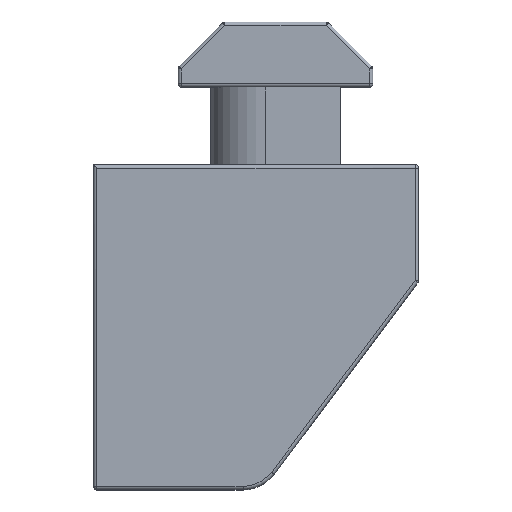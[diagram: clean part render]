
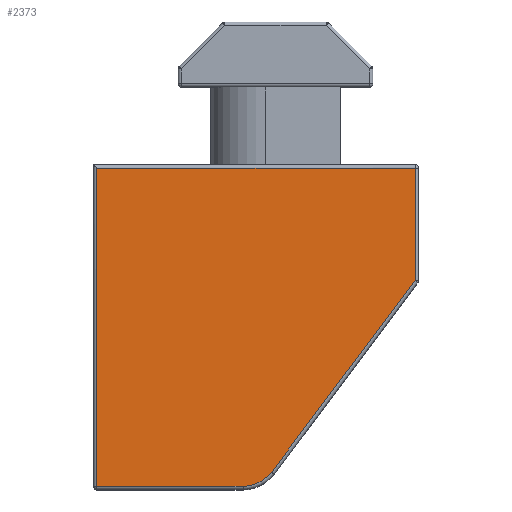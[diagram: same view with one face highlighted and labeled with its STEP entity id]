
A CAD part, top view. The second image highlights one B-rep face of the part: STEP entity #2373.
In plain terms, the highlighted planar face has unit normal (0, 0, 1).
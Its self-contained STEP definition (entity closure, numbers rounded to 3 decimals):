
#23 = DIRECTION ( 'NONE',  ( 1., 0., 0. ) ) ;
#24 = CARTESIAN_POINT ( 'NONE',  ( -1., -12.25, 18.5 ) ) ;
#25 = DIRECTION ( 'NONE',  ( 0.6, 0.8, 0. ) ) ;
#26 = CARTESIAN_POINT ( 'NONE',  ( 12.3, 3.65, 18.5 ) ) ;
#27 = DIRECTION ( 'NONE',  ( 0., 1., 0. ) ) ;
#30 = CARTESIAN_POINT ( 'NONE',  ( 12.25, 12.5, 18.5 ) ) ;
#31 = DIRECTION ( 'NONE',  ( 0., -1., 0. ) ) ;
#32 = CARTESIAN_POINT ( 'NONE',  ( -12.25, -12.5, 18.5 ) ) ;
#33 = DIRECTION ( 'NONE',  ( -1., 0., 0. ) ) ;
#34 = CARTESIAN_POINT ( 'NONE',  ( -12.5, 12.25, 18.5 ) ) ;
#36 = DIRECTION ( 'NONE',  ( 1., 0., 0. ) ) ;
#37 = DIRECTION ( 'NONE',  ( 0., 0., 1. ) ) ;
#45 = CARTESIAN_POINT ( 'NONE',  ( -1., -9.5, 18.5 ) ) ;
#579 = CARTESIAN_POINT ( 'NONE',  ( -12.25, 12.25, 18.5 ) ) ;
#588 = CARTESIAN_POINT ( 'NONE',  ( -1., -12.25, 18.5 ) ) ;
#603 = CARTESIAN_POINT ( 'NONE',  ( 1.2, -11.15, 18.5 ) ) ;
#684 = CARTESIAN_POINT ( 'NONE',  ( 12.25, 12.25, 18.5 ) ) ;
#711 = CARTESIAN_POINT ( 'NONE',  ( -12.25, -12.25, 18.5 ) ) ;
#712 = CARTESIAN_POINT ( 'NONE',  ( 12.25, 3.583, 18.5 ) ) ;
#721 = VERTEX_POINT ( 'NONE', #712 ) ;
#722 = VERTEX_POINT ( 'NONE', #711 ) ;
#749 = VERTEX_POINT ( 'NONE', #684 ) ;
#844 = VERTEX_POINT ( 'NONE', #603 ) ;
#859 = VERTEX_POINT ( 'NONE', #588 ) ;
#868 = VERTEX_POINT ( 'NONE', #579 ) ;
#1271 = EDGE_LOOP ( 'NONE', ( #1673, #1680, #1675, #1296, #1672, #1679 ) ) ;
#1296 = ORIENTED_EDGE ( 'NONE', *, *, #2315, .T. ) ;
#1672 = ORIENTED_EDGE ( 'NONE', *, *, #2320, .T. ) ;
#1673 = ORIENTED_EDGE ( 'NONE', *, *, #2317, .T. ) ;
#1675 = ORIENTED_EDGE ( 'NONE', *, *, #2321, .T. ) ;
#1679 = ORIENTED_EDGE ( 'NONE', *, *, #2319, .T. ) ;
#1680 = ORIENTED_EDGE ( 'NONE', *, *, #2318, .T. ) ;
#2139 = AXIS2_PLACEMENT_3D ( 'NONE', #2949, #2944, #2943 ) ;
#2163 = AXIS2_PLACEMENT_3D ( 'NONE', #45, #37, #36 ) ;
#2315 = EDGE_CURVE ( 'NONE', #859, #844, #2626, .T. ) ;
#2317 = EDGE_CURVE ( 'NONE', #749, #868, #2639, .T. ) ;
#2318 = EDGE_CURVE ( 'NONE', #868, #722, #2823, .T. ) ;
#2319 = EDGE_CURVE ( 'NONE', #721, #749, #2822, .T. ) ;
#2320 = EDGE_CURVE ( 'NONE', #844, #721, #2820, .T. ) ;
#2321 = EDGE_CURVE ( 'NONE', #722, #859, #2818, .T. ) ;
#2373 = ADVANCED_FACE ( 'NONE', ( #2731 ), #2947, .T. ) ;
#2626 = CIRCLE ( 'NONE', #2163, 2.75 ) ;
#2639 = LINE ( 'NONE', #34, #2759 ) ;
#2648 = VECTOR ( 'NONE', #31, 1000. ) ;
#2731 = FACE_OUTER_BOUND ( 'NONE', #1271, .T. ) ;
#2759 = VECTOR ( 'NONE', #33, 1000. ) ;
#2817 = VECTOR ( 'NONE', #23, 1000. ) ;
#2818 = LINE ( 'NONE', #24, #2817 ) ;
#2819 = VECTOR ( 'NONE', #25, 1000. ) ;
#2820 = LINE ( 'NONE', #26, #2819 ) ;
#2821 = VECTOR ( 'NONE', #27, 1000. ) ;
#2822 = LINE ( 'NONE', #30, #2821 ) ;
#2823 = LINE ( 'NONE', #32, #2648 ) ;
#2943 = DIRECTION ( 'NONE',  ( 1., 0., 0. ) ) ;
#2944 = DIRECTION ( 'NONE',  ( 0., 0., 1. ) ) ;
#2947 = PLANE ( 'NONE',  #2139 ) ;
#2949 = CARTESIAN_POINT ( 'NONE',  ( 12.5, -12.5, 18.5 ) ) ;
